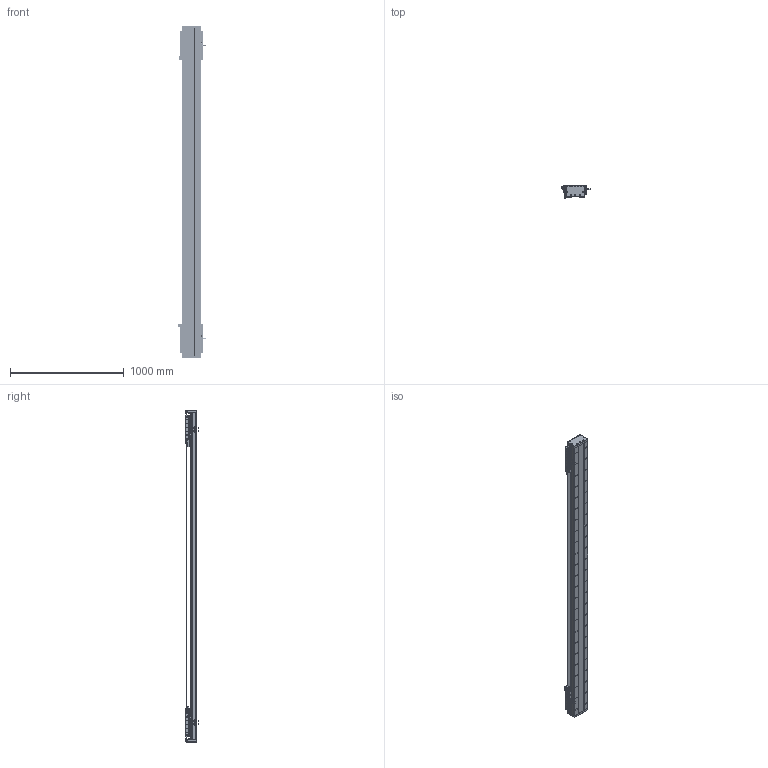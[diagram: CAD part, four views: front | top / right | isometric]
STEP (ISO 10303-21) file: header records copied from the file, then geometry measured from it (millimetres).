
FILE_DESCRIPTION (( 'STEP AP203' ), '1' );
FILE_NAME ('DA-C165-2-C3-T2300-C010-0.2 直线电机.STEP', '2023-06-13T09:18:04', ( '微软用户' ), ( '微软中国' ), 'SwSTEP 2.0', 'SolidWorks 2019', '' );
FILE_SCHEMA (( 'CONFIG_CONTROL_DESIGN' ));
Length unit declared in the file: millimetre
Products named in the file (22): 复件 DA165-GYP-00 光电感应片^DA-C165-C3-T-C010-0.2-N 直线电机; 复件 DA165-GDYK-00 钢带压块^复件 CU165钢带组件_DA-C165-C3-T-C010-0.2-N 直线电机; 复件 66338-1000-006-00 光电感应块^DA-C165-C3-T-C010-0.2-N 直线电机; 复件 CU165钢带组件^DA-C165-C3-T-C010-0.2-N 直线电机; IU-CU165-L 菁釱絳寢; 珨极趙賑雄怢啣C3-wf; 复件 DA95-HXJ-00 缓冲橡胶^DA-C165-C3-T-C010-0.2-N 直线电机; 复件 六角薄螺母 M3^DA-C165-C3-T-C010-0.2-N 直线电机_GB_FASTENER_NUT_STNAB M3-C; 葩璃 DA95-GT-T-00^IU-CU165-L 菁釱絳寢_T; 复件 DA165-GD-1860-002-00 钢带盖板^复件 CU165钢带组件_DA-C165-C3-T-C010-0.2-N 直线电机; 复件 DA165-GD-DG-H-00 端盖^复件 CU165钢带组件_DA-C165-C3-T-C010-0.2-N 直线电机; 葩璃 PM-Y45^DA-C165-C3-T-C010-0.2-N 眻盄萇儂; 复件 DA165-GDLK-00 钢带拉块^复件 CU165钢带组件_DA-C165-C3-T-C010-0.2-N 直线电机; DA-C165-2-C3-T2300-C010-0.2 眻盄萇儂; 葩璃 CKM01-W075-TRL^DA-C165-C3-T-C010-0.2-N 眻盄萇儂; 葩璃 CKM03-W075-C1C2-TP-3.0^DA-C165-C3-T-C010-0.2-N 眻盄萇儂; 复件 DMA-010-0.2 读数头^DA-C165-C3-T-C010-0.2-N 直线电机; 葩璃 PM-T45^DA-C165-C3-T-C010-0.2-N 眻盄萇儂; 复件 XD-U-02L 磁栅尺^DA-C165-C3-T-C010-0.2-N 直线电机_T; 复件 DKW-HXJ-JY-00 缓冲橡胶^DA-C165-C3-T-C010-0.2-N 直线电机; 复件 DA126-GYP-ZJ-00 中间光电感应片^DA-C165-C3-T-C010-0.2-N 直线电机; 复件 CU165 底座^IU-CU165-L 底座导轨_L2880
Assembly tree (45 placements, depth 3):
  DA-C165-2-C3-T2300-C010-0.2 眻盄萇儂
    IU-CU165-L 菁釱絳寢
      复件 CU165 底座^IU-CU165-L 底座导轨_L2880
      葩璃 DA95-GT-T-00^IU-CU165-L 菁釱絳寢_T  x4
    复件 XD-U-02L 磁栅尺^DA-C165-C3-T-C010-0.2-N 直线电机_T
    葩璃 PM-T45^DA-C165-C3-T-C010-0.2-N 眻盄萇儂  x4
    葩璃 CKM01-W075-TRL^DA-C165-C3-T-C010-0.2-N 眻盄萇儂
    复件 CU165钢带组件^DA-C165-C3-T-C010-0.2-N 直线电机
      复件 DA165-GD-DG-H-00 端盖^复件 CU165钢带组件_DA-C165-C3-T-C010-0.2-N 直线电机  x2
      复件 DA165-GDYK-00 钢带压块^复件 CU165钢带组件_DA-C165-C3-T-C010-0.2-N 直线电机  x2
      复件 DA165-GD-1860-002-00 钢带盖板^复件 CU165钢带组件_DA-C165-C3-T-C010-0.2-N 直线电机
      复件 DA165-GDLK-00 钢带拉块^复件 CU165钢带组件_DA-C165-C3-T-C010-0.2-N 直线电机  x2
    复件 DA95-HXJ-00 缓冲橡胶^DA-C165-C3-T-C010-0.2-N 直线电机  x4
    复件 DMA-010-0.2 读数头^DA-C165-C3-T-C010-0.2-N 直线电机  x2
    复件 DA165-GYP-00 光电感应片^DA-C165-C3-T-C010-0.2-N 直线电机  x2
    复件 66338-1000-006-00 光电感应块^DA-C165-C3-T-C010-0.2-N 直线电机
    葩璃 PM-Y45^DA-C165-C3-T-C010-0.2-N 眻盄萇儂
    复件 DA126-GYP-ZJ-00 中间光电感应片^DA-C165-C3-T-C010-0.2-N 直线电机
    葩璃 CKM03-W075-C1C2-TP-3.0^DA-C165-C3-T-C010-0.2-N 眻盄萇儂  x2
    复件 DKW-HXJ-JY-00 缓冲橡胶^DA-C165-C3-T-C010-0.2-N 直线电机  x2
    复件 六角薄螺母 M3^DA-C165-C3-T-C010-0.2-N 直线电机_GB_FASTENER_NUT_STNAB M3-C  x8
    珨极趙賑雄怢啣C3-wf  x2
Bounding box: 247.2 x 111.45 x 2920 mm (x, y, z)
Volume: 18677040 mm3; surface area: 5319308.5 mm2
Topology: 121 solids, 221 shells, 6701 faces, 18426 edges, 11492 vertices
Faces by surface type: cylinder 3606, plane 2027, cone 980, torus 80, sphere 8
Entity records: 155322 total; most frequent: CARTESIAN_POINT 41953, ORIENTED_EDGE 23436, DIRECTION 22826, EDGE_CURVE 11718, AXIS2_PLACEMENT_3D 8731, VERTEX_POINT 7646, EDGE_LOOP 5438, VECTOR 5364
